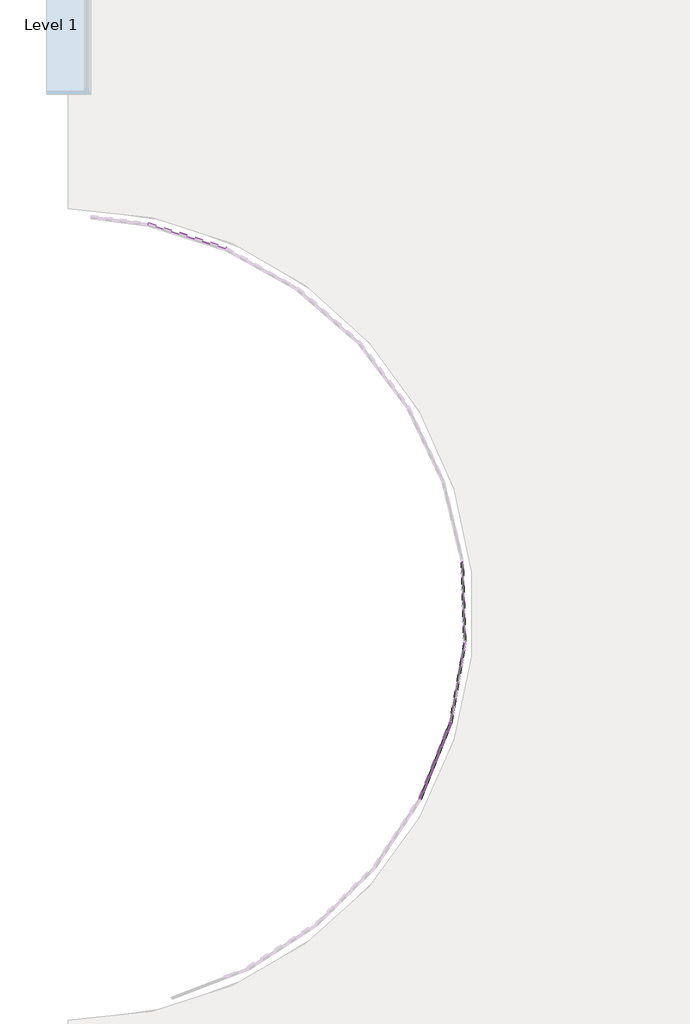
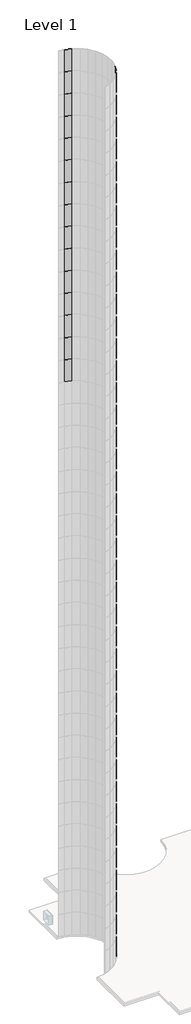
# One storey, part 5 of 19: 128 plates.
"""IFC4 building model written with IfcOpenShell, lengths in millimetres."""

from ifc_helpers import new_model, si_unit, origin, place, context, project, spatial, transform, mapped, element, save
from components import system_panel_glazed_d77d1ebf

model = new_model("IFC4")

# Units and contexts
model_context = context("Model", 3, world=origin())
ifc_project = project(units=[si_unit("LENGTHUNIT", "METRE", prefix="MILLI")], contexts=[model_context])

# Site, building, storey
site = spatial("IfcSite", under=ifc_project)
building = spatial("IfcBuilding", under=site)
storey = spatial("IfcBuildingStorey", under=building, Name="Level 1", Elevation=0.0)

# Plates
placement = place(None, origin())
system_panel_glazed_shape = system_panel_glazed_d77d1ebf(model_context)
element("IfcPlate", 1, ObjectType="System Panel : Glazed", at=placement, inside=storey, context=model_context, shape_type="MappedRepresentation", body=[
    mapped(system_panel_glazed_shape, transform((-10393.2415603, -1968.0681493, 76200.0), x_axis=(-0.9538156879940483, 0.30039246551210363, 0.0), y_axis=(-0.30039246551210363, -0.9538156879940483, 0.0), z_axis=(0.0, 0.0, 1.0))),
])
element("IfcPlate", 2, ObjectType="System Panel : Glazed", at=placement, inside=storey, context=model_context, shape_type="MappedRepresentation", body=[
    mapped(system_panel_glazed_shape, transform((-10393.2415603, -1968.0681493, 79248.0), x_axis=(-0.9538156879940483, 0.30039246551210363, 0.0), y_axis=(-0.30039246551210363, -0.9538156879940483, 0.0), z_axis=(0.0, 0.0, 1.0))),
])
element("IfcPlate", 3, ObjectType="System Panel : Glazed", at=placement, inside=storey, context=model_context, shape_type="MappedRepresentation", body=[
    mapped(system_panel_glazed_shape, transform((-10393.2415603, -1968.0681493, 82296.0), x_axis=(-0.9538156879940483, 0.30039246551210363, 0.0), y_axis=(-0.30039246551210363, -0.9538156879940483, 0.0), z_axis=(0.0, 0.0, 1.0))),
])
element("IfcPlate", 4, ObjectType="System Panel : Glazed", at=placement, inside=storey, context=model_context, shape_type="MappedRepresentation", body=[
    mapped(system_panel_glazed_shape, transform((-10393.2415603, -1968.0681493, 85344.0), x_axis=(-0.9538156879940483, 0.30039246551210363, 0.0), y_axis=(-0.30039246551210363, -0.9538156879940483, 0.0), z_axis=(0.0, 0.0, 1.0))),
])
element("IfcPlate", 5, ObjectType="System Panel : Glazed", at=placement, inside=storey, context=model_context, shape_type="MappedRepresentation", body=[
    mapped(system_panel_glazed_shape, transform((-10393.2415603, -1968.0681493, 88392.0), x_axis=(-0.9538156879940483, 0.30039246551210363, 0.0), y_axis=(-0.30039246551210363, -0.9538156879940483, 0.0), z_axis=(0.0, 0.0, 1.0))),
])
element("IfcPlate", 6, ObjectType="System Panel : Glazed", at=placement, inside=storey, context=model_context, shape_type="MappedRepresentation", body=[
    mapped(system_panel_glazed_shape, transform((-10393.2415603, -1968.0681493, 91440.0), x_axis=(-0.9538156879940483, 0.30039246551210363, 0.0), y_axis=(-0.30039246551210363, -0.9538156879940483, 0.0), z_axis=(0.0, 0.0, 1.0))),
])
element("IfcPlate", 7, ObjectType="System Panel : Glazed", at=placement, inside=storey, context=model_context, shape_type="MappedRepresentation", body=[
    mapped(system_panel_glazed_shape, transform((-10393.2415603, -1968.0681493, 94488.0), x_axis=(-0.9538156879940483, 0.30039246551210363, 0.0), y_axis=(-0.30039246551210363, -0.9538156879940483, 0.0), z_axis=(0.0, 0.0, 1.0))),
])
element("IfcPlate", 8, ObjectType="System Panel : Glazed", at=placement, inside=storey, context=model_context, shape_type="MappedRepresentation", body=[
    mapped(system_panel_glazed_shape, transform((-10393.2415603, -1968.0681493, 97536.0), x_axis=(-0.9538156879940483, 0.30039246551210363, 0.0), y_axis=(-0.30039246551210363, -0.9538156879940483, 0.0), z_axis=(0.0, 0.0, 1.0))),
])
element("IfcPlate", 9, ObjectType="System Panel : Glazed", at=placement, inside=storey, context=model_context, shape_type="MappedRepresentation", body=[
    mapped(system_panel_glazed_shape, transform((-10393.2415603, -1968.0681493, 100584.0), x_axis=(-0.9538156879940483, 0.30039246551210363, 0.0), y_axis=(-0.30039246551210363, -0.9538156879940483, 0.0), z_axis=(0.0, 0.0, 1.0))),
])
element("IfcPlate", 10, ObjectType="System Panel : Glazed", at=placement, inside=storey, context=model_context, shape_type="MappedRepresentation", body=[
    mapped(system_panel_glazed_shape, transform((-7616.2679674, -7836.7336518, 0.0), x_axis=(0.37255142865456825, 0.9280115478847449, 0.0), y_axis=(-0.9280115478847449, 0.37255142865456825, 0.0), z_axis=(0.0, 0.0, 1.0))),
])
element("IfcPlate", 11, ObjectType="System Panel : Glazed", at=placement, inside=storey, context=model_context, shape_type="MappedRepresentation", body=[
    mapped(system_panel_glazed_shape, transform((-7616.2679674, -7836.7336518, 3048.0), x_axis=(0.37255142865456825, 0.9280115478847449, 0.0), y_axis=(-0.9280115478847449, 0.37255142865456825, 0.0), z_axis=(0.0, 0.0, 1.0))),
])
element("IfcPlate", 12, ObjectType="System Panel : Glazed", at=placement, inside=storey, context=model_context, shape_type="MappedRepresentation", body=[
    mapped(system_panel_glazed_shape, transform((-7616.2679674, -7836.7336518, 6096.0), x_axis=(0.37255142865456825, 0.9280115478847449, 0.0), y_axis=(-0.9280115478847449, 0.37255142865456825, 0.0), z_axis=(0.0, 0.0, 1.0))),
])
element("IfcPlate", 13, ObjectType="System Panel : Glazed", at=placement, inside=storey, context=model_context, shape_type="MappedRepresentation", body=[
    mapped(system_panel_glazed_shape, transform((-7616.2679674, -7836.7336518, 9144.0), x_axis=(0.37255142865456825, 0.9280115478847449, 0.0), y_axis=(-0.9280115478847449, 0.37255142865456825, 0.0), z_axis=(0.0, 0.0, 1.0))),
])
element("IfcPlate", 14, ObjectType="System Panel : Glazed", at=placement, inside=storey, context=model_context, shape_type="MappedRepresentation", body=[
    mapped(system_panel_glazed_shape, transform((-7616.2679674, -7836.7336518, 12192.0), x_axis=(0.37255142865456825, 0.9280115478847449, 0.0), y_axis=(-0.9280115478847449, 0.37255142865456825, 0.0), z_axis=(0.0, 0.0, 1.0))),
])
element("IfcPlate", 15, ObjectType="System Panel : Glazed", at=placement, inside=storey, context=model_context, shape_type="MappedRepresentation", body=[
    mapped(system_panel_glazed_shape, transform((-7616.2679674, -7836.7336518, 15240.0), x_axis=(0.37255142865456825, 0.9280115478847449, 0.0), y_axis=(-0.9280115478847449, 0.37255142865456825, 0.0), z_axis=(0.0, 0.0, 1.0))),
])
element("IfcPlate", 16, ObjectType="System Panel : Glazed", at=placement, inside=storey, context=model_context, shape_type="MappedRepresentation", body=[
    mapped(system_panel_glazed_shape, transform((-7616.2679674, -7836.7336518, 18288.0), x_axis=(0.3725514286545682, 0.9280115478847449, 0.0), y_axis=(-0.9280115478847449, 0.3725514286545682, 0.0), z_axis=(0.0, 0.0, 1.0))),
])
element("IfcPlate", 17, ObjectType="System Panel : Glazed", at=placement, inside=storey, context=model_context, shape_type="MappedRepresentation", body=[
    mapped(system_panel_glazed_shape, transform((-7616.2679674, -7836.7336518, 21336.0), x_axis=(0.37255142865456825, 0.9280115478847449, 0.0), y_axis=(-0.9280115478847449, 0.37255142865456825, 0.0), z_axis=(0.0, 0.0, 1.0))),
])
element("IfcPlate", 18, ObjectType="System Panel : Glazed", at=placement, inside=storey, context=model_context, shape_type="MappedRepresentation", body=[
    mapped(system_panel_glazed_shape, transform((-7616.2679674, -7836.7336518, 24384.0), x_axis=(0.37255142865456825, 0.9280115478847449, 0.0), y_axis=(-0.9280115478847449, 0.37255142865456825, 0.0), z_axis=(0.0, 0.0, 1.0))),
])
element("IfcPlate", 19, ObjectType="System Panel : Glazed", at=placement, inside=storey, context=model_context, shape_type="MappedRepresentation", body=[
    mapped(system_panel_glazed_shape, transform((-7616.2679674, -7836.7336518, 27432.0), x_axis=(0.37255142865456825, 0.9280115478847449, 0.0), y_axis=(-0.9280115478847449, 0.37255142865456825, 0.0), z_axis=(0.0, 0.0, 1.0))),
])
element("IfcPlate", 20, ObjectType="System Panel : Glazed", at=placement, inside=storey, context=model_context, shape_type="MappedRepresentation", body=[
    mapped(system_panel_glazed_shape, transform((-7616.2679674, -7836.7336518, 30480.0), x_axis=(0.37255142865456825, 0.9280115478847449, 0.0), y_axis=(-0.9280115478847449, 0.37255142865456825, 0.0), z_axis=(0.0, 0.0, 1.0))),
])
element("IfcPlate", 21, ObjectType="System Panel : Glazed", at=placement, inside=storey, context=model_context, shape_type="MappedRepresentation", body=[
    mapped(system_panel_glazed_shape, transform((-7616.2679674, -7836.7336518, 33528.0), x_axis=(0.37255142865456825, 0.9280115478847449, 0.0), y_axis=(-0.9280115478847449, 0.37255142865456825, 0.0), z_axis=(0.0, 0.0, 1.0))),
])
element("IfcPlate", 22, ObjectType="System Panel : Glazed", at=placement, inside=storey, context=model_context, shape_type="MappedRepresentation", body=[
    mapped(system_panel_glazed_shape, transform((-7616.2679674, -7836.7336518, 36576.0), x_axis=(0.37255142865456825, 0.9280115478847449, 0.0), y_axis=(-0.9280115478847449, 0.37255142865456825, 0.0), z_axis=(0.0, 0.0, 1.0))),
])
element("IfcPlate", 23, ObjectType="System Panel : Glazed", at=placement, inside=storey, context=model_context, shape_type="MappedRepresentation", body=[
    mapped(system_panel_glazed_shape, transform((-7616.2679674, -7836.7336518, 39624.0), x_axis=(0.37255142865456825, 0.9280115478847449, 0.0), y_axis=(-0.9280115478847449, 0.37255142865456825, 0.0), z_axis=(0.0, 0.0, 1.0))),
])
element("IfcPlate", 24, ObjectType="System Panel : Glazed", at=placement, inside=storey, context=model_context, shape_type="MappedRepresentation", body=[
    mapped(system_panel_glazed_shape, transform((-7616.2679674, -7836.7336518, 42672.0), x_axis=(0.37255142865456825, 0.9280115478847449, 0.0), y_axis=(-0.9280115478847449, 0.37255142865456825, 0.0), z_axis=(0.0, 0.0, 1.0))),
])
element("IfcPlate", 25, ObjectType="System Panel : Glazed", at=placement, inside=storey, context=model_context, shape_type="MappedRepresentation", body=[
    mapped(system_panel_glazed_shape, transform((-7616.2679674, -7836.7336518, 45720.0), x_axis=(0.37255142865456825, 0.9280115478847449, 0.0), y_axis=(-0.9280115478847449, 0.37255142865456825, 0.0), z_axis=(0.0, 0.0, 1.0))),
])
element("IfcPlate", 26, ObjectType="System Panel : Glazed", at=placement, inside=storey, context=model_context, shape_type="MappedRepresentation", body=[
    mapped(system_panel_glazed_shape, transform((-7616.2679674, -7836.7336518, 48768.0), x_axis=(0.37255142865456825, 0.9280115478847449, 0.0), y_axis=(-0.9280115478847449, 0.37255142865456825, 0.0), z_axis=(0.0, 0.0, 1.0))),
])
element("IfcPlate", 27, ObjectType="System Panel : Glazed", at=placement, inside=storey, context=model_context, shape_type="MappedRepresentation", body=[
    mapped(system_panel_glazed_shape, transform((-7616.2679674, -7836.7336518, 51816.0), x_axis=(0.37255142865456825, 0.9280115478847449, 0.0), y_axis=(-0.9280115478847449, 0.37255142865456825, 0.0), z_axis=(0.0, 0.0, 1.0))),
])
element("IfcPlate", 28, ObjectType="System Panel : Glazed", at=placement, inside=storey, context=model_context, shape_type="MappedRepresentation", body=[
    mapped(system_panel_glazed_shape, transform((-7616.2679674, -7836.7336518, 54864.0), x_axis=(0.37255142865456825, 0.9280115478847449, 0.0), y_axis=(-0.9280115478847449, 0.37255142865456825, 0.0), z_axis=(0.0, 0.0, 1.0))),
])
element("IfcPlate", 29, ObjectType="System Panel : Glazed", at=placement, inside=storey, context=model_context, shape_type="MappedRepresentation", body=[
    mapped(system_panel_glazed_shape, transform((-7616.2679674, -7836.7336518, 57912.0), x_axis=(0.37255142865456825, 0.9280115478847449, 0.0), y_axis=(-0.9280115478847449, 0.37255142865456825, 0.0), z_axis=(0.0, 0.0, 1.0))),
])
element("IfcPlate", 30, ObjectType="System Panel : Glazed", at=placement, inside=storey, context=model_context, shape_type="MappedRepresentation", body=[
    mapped(system_panel_glazed_shape, transform((-7616.2679674, -7836.7336518, 60960.0), x_axis=(0.37255142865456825, 0.9280115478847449, 0.0), y_axis=(-0.9280115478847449, 0.37255142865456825, 0.0), z_axis=(0.0, 0.0, 1.0))),
])
element("IfcPlate", 31, ObjectType="System Panel : Glazed", at=placement, inside=storey, context=model_context, shape_type="MappedRepresentation", body=[
    mapped(system_panel_glazed_shape, transform((-7616.2679674, -7836.7336518, 64008.0), x_axis=(0.37255142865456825, 0.9280115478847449, 0.0), y_axis=(-0.9280115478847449, 0.37255142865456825, 0.0), z_axis=(0.0, 0.0, 1.0))),
])
element("IfcPlate", 32, ObjectType="System Panel : Glazed", at=placement, inside=storey, context=model_context, shape_type="MappedRepresentation", body=[
    mapped(system_panel_glazed_shape, transform((-7616.2679674, -7836.7336518, 67056.0), x_axis=(0.37255142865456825, 0.9280115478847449, 0.0), y_axis=(-0.9280115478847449, 0.37255142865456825, 0.0), z_axis=(0.0, 0.0, 1.0))),
])
element("IfcPlate", 33, ObjectType="System Panel : Glazed", at=placement, inside=storey, context=model_context, shape_type="MappedRepresentation", body=[
    mapped(system_panel_glazed_shape, transform((-7616.2679674, -7836.7336518, 70104.0), x_axis=(0.37255142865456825, 0.9280115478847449, 0.0), y_axis=(-0.9280115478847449, 0.37255142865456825, 0.0), z_axis=(0.0, 0.0, 1.0))),
])
element("IfcPlate", 34, ObjectType="System Panel : Glazed", at=placement, inside=storey, context=model_context, shape_type="MappedRepresentation", body=[
    mapped(system_panel_glazed_shape, transform((-7616.2679674, -7836.7336518, 73152.0), x_axis=(0.37255142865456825, 0.9280115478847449, 0.0), y_axis=(-0.9280115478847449, 0.37255142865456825, 0.0), z_axis=(0.0, 0.0, 1.0))),
])
element("IfcPlate", 35, ObjectType="System Panel : Glazed", at=placement, inside=storey, context=model_context, shape_type="MappedRepresentation", body=[
    mapped(system_panel_glazed_shape, transform((-7616.2679674, -7836.7336518, 76200.0), x_axis=(0.37255142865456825, 0.9280115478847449, 0.0), y_axis=(-0.9280115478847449, 0.37255142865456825, 0.0), z_axis=(0.0, 0.0, 1.0))),
])
element("IfcPlate", 36, ObjectType="System Panel : Glazed", at=placement, inside=storey, context=model_context, shape_type="MappedRepresentation", body=[
    mapped(system_panel_glazed_shape, transform((-7616.2679674, -7836.7336518, 79248.0), x_axis=(0.37255142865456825, 0.9280115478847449, 0.0), y_axis=(-0.9280115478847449, 0.37255142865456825, 0.0), z_axis=(0.0, 0.0, 1.0))),
])
element("IfcPlate", 37, ObjectType="System Panel : Glazed", at=placement, inside=storey, context=model_context, shape_type="MappedRepresentation", body=[
    mapped(system_panel_glazed_shape, transform((-7616.2679674, -7836.7336518, 82296.0), x_axis=(0.37255142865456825, 0.9280115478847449, 0.0), y_axis=(-0.9280115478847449, 0.37255142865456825, 0.0), z_axis=(0.0, 0.0, 1.0))),
])
element("IfcPlate", 38, ObjectType="System Panel : Glazed", at=placement, inside=storey, context=model_context, shape_type="MappedRepresentation", body=[
    mapped(system_panel_glazed_shape, transform((-7616.2679674, -7836.7336518, 85344.0), x_axis=(0.37255142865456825, 0.9280115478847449, 0.0), y_axis=(-0.9280115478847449, 0.37255142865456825, 0.0), z_axis=(0.0, 0.0, 1.0))),
])
element("IfcPlate", 39, ObjectType="System Panel : Glazed", at=placement, inside=storey, context=model_context, shape_type="MappedRepresentation", body=[
    mapped(system_panel_glazed_shape, transform((-7616.2679674, -7836.7336518, 88392.0), x_axis=(0.37255142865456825, 0.9280115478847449, 0.0), y_axis=(-0.9280115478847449, 0.37255142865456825, 0.0), z_axis=(0.0, 0.0, 1.0))),
])
element("IfcPlate", 40, ObjectType="System Panel : Glazed", at=placement, inside=storey, context=model_context, shape_type="MappedRepresentation", body=[
    mapped(system_panel_glazed_shape, transform((-7616.2679674, -7836.7336518, 91440.0), x_axis=(0.37255142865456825, 0.9280115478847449, 0.0), y_axis=(-0.9280115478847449, 0.37255142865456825, 0.0), z_axis=(0.0, 0.0, 1.0))),
])
element("IfcPlate", 41, ObjectType="System Panel : Glazed", at=placement, inside=storey, context=model_context, shape_type="MappedRepresentation", body=[
    mapped(system_panel_glazed_shape, transform((-7616.2679674, -7836.7336518, 94488.0), x_axis=(0.37255142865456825, 0.9280115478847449, 0.0), y_axis=(-0.9280115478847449, 0.37255142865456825, 0.0), z_axis=(0.0, 0.0, 1.0))),
])
element("IfcPlate", 42, ObjectType="System Panel : Glazed", at=placement, inside=storey, context=model_context, shape_type="MappedRepresentation", body=[
    mapped(system_panel_glazed_shape, transform((-7616.2679674, -7836.7336518, 97536.0), x_axis=(0.37255142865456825, 0.9280115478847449, 0.0), y_axis=(-0.9280115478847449, 0.37255142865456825, 0.0), z_axis=(0.0, 0.0, 1.0))),
])
element("IfcPlate", 43, ObjectType="System Panel : Glazed", at=placement, inside=storey, context=model_context, shape_type="MappedRepresentation", body=[
    mapped(system_panel_glazed_shape, transform((-7616.2679674, -7836.7336518, 100584.0), x_axis=(0.37255142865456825, 0.9280115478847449, 0.0), y_axis=(-0.9280115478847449, 0.37255142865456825, 0.0), z_axis=(0.0, 0.0, 1.0))),
])
element("IfcPlate", 44, ObjectType="System Panel : Glazed", at=placement, inside=storey, context=model_context, shape_type="MappedRepresentation", body=[
    mapped(system_panel_glazed_shape, transform((-7365.9634866, -6962.2956813, 0.0), x_axis=(0.17492118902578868, 0.9845824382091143, 0.0), y_axis=(-0.9845824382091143, 0.17492118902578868, 0.0), z_axis=(0.0, 0.0, 1.0))),
])
element("IfcPlate", 45, ObjectType="System Panel : Glazed", at=placement, inside=storey, context=model_context, shape_type="MappedRepresentation", body=[
    mapped(system_panel_glazed_shape, transform((-7365.9634866, -6962.2956813, 3048.0), x_axis=(0.17492118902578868, 0.9845824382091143, 0.0), y_axis=(-0.9845824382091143, 0.17492118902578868, 0.0), z_axis=(0.0, 0.0, 1.0))),
])
element("IfcPlate", 46, ObjectType="System Panel : Glazed", at=placement, inside=storey, context=model_context, shape_type="MappedRepresentation", body=[
    mapped(system_panel_glazed_shape, transform((-7365.9634866, -6962.2956813, 6096.0), x_axis=(0.17492118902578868, 0.9845824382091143, 0.0), y_axis=(-0.9845824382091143, 0.17492118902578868, 0.0), z_axis=(0.0, 0.0, 1.0))),
])
element("IfcPlate", 47, ObjectType="System Panel : Glazed", at=placement, inside=storey, context=model_context, shape_type="MappedRepresentation", body=[
    mapped(system_panel_glazed_shape, transform((-7365.9634866, -6962.2956813, 9144.0), x_axis=(0.17492118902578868, 0.9845824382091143, 0.0), y_axis=(-0.9845824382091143, 0.17492118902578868, 0.0), z_axis=(0.0, 0.0, 1.0))),
])
element("IfcPlate", 48, ObjectType="System Panel : Glazed", at=placement, inside=storey, context=model_context, shape_type="MappedRepresentation", body=[
    mapped(system_panel_glazed_shape, transform((-7365.9634866, -6962.2956813, 12192.0), x_axis=(0.17492118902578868, 0.9845824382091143, 0.0), y_axis=(-0.9845824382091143, 0.17492118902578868, 0.0), z_axis=(0.0, 0.0, 1.0))),
])
element("IfcPlate", 49, ObjectType="System Panel : Glazed", at=placement, inside=storey, context=model_context, shape_type="MappedRepresentation", body=[
    mapped(system_panel_glazed_shape, transform((-7365.9634866, -6962.2956813, 15240.0), x_axis=(0.17492118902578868, 0.9845824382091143, 0.0), y_axis=(-0.9845824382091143, 0.17492118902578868, 0.0), z_axis=(0.0, 0.0, 1.0))),
])
element("IfcPlate", 50, ObjectType="System Panel : Glazed", at=placement, inside=storey, context=model_context, shape_type="MappedRepresentation", body=[
    mapped(system_panel_glazed_shape, transform((-7365.9634866, -6962.2956813, 18288.0), x_axis=(0.17492118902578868, 0.9845824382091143, 0.0), y_axis=(-0.9845824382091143, 0.17492118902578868, 0.0), z_axis=(0.0, 0.0, 1.0))),
])
element("IfcPlate", 51, ObjectType="System Panel : Glazed", at=placement, inside=storey, context=model_context, shape_type="MappedRepresentation", body=[
    mapped(system_panel_glazed_shape, transform((-7365.9634866, -6962.2956813, 21336.0), x_axis=(0.17492118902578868, 0.9845824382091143, 0.0), y_axis=(-0.9845824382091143, 0.17492118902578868, 0.0), z_axis=(0.0, 0.0, 1.0))),
])
element("IfcPlate", 52, ObjectType="System Panel : Glazed", at=placement, inside=storey, context=model_context, shape_type="MappedRepresentation", body=[
    mapped(system_panel_glazed_shape, transform((-7365.9634866, -6962.2956813, 24384.0), x_axis=(0.17492118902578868, 0.9845824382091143, 0.0), y_axis=(-0.9845824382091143, 0.17492118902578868, 0.0), z_axis=(0.0, 0.0, 1.0))),
])
element("IfcPlate", 53, ObjectType="System Panel : Glazed", at=placement, inside=storey, context=model_context, shape_type="MappedRepresentation", body=[
    mapped(system_panel_glazed_shape, transform((-7365.9634866, -6962.2956813, 27432.0), x_axis=(0.17492118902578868, 0.9845824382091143, 0.0), y_axis=(-0.9845824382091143, 0.17492118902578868, 0.0), z_axis=(0.0, 0.0, 1.0))),
])
element("IfcPlate", 54, ObjectType="System Panel : Glazed", at=placement, inside=storey, context=model_context, shape_type="MappedRepresentation", body=[
    mapped(system_panel_glazed_shape, transform((-7365.9634866, -6962.2956813, 30480.0), x_axis=(0.17492118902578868, 0.9845824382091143, 0.0), y_axis=(-0.9845824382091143, 0.17492118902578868, 0.0), z_axis=(0.0, 0.0, 1.0))),
])
element("IfcPlate", 55, ObjectType="System Panel : Glazed", at=placement, inside=storey, context=model_context, shape_type="MappedRepresentation", body=[
    mapped(system_panel_glazed_shape, transform((-7365.9634866, -6962.2956813, 33528.0), x_axis=(0.17492118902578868, 0.9845824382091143, 0.0), y_axis=(-0.9845824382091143, 0.17492118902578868, 0.0), z_axis=(0.0, 0.0, 1.0))),
])
element("IfcPlate", 56, ObjectType="System Panel : Glazed", at=placement, inside=storey, context=model_context, shape_type="MappedRepresentation", body=[
    mapped(system_panel_glazed_shape, transform((-7365.9634866, -6962.2956813, 36576.0), x_axis=(0.17492118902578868, 0.9845824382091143, 0.0), y_axis=(-0.9845824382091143, 0.17492118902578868, 0.0), z_axis=(0.0, 0.0, 1.0))),
])
element("IfcPlate", 57, ObjectType="System Panel : Glazed", at=placement, inside=storey, context=model_context, shape_type="MappedRepresentation", body=[
    mapped(system_panel_glazed_shape, transform((-7365.9634866, -6962.2956813, 39624.0), x_axis=(0.17492118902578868, 0.9845824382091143, 0.0), y_axis=(-0.9845824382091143, 0.17492118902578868, 0.0), z_axis=(0.0, 0.0, 1.0))),
])
element("IfcPlate", 58, ObjectType="System Panel : Glazed", at=placement, inside=storey, context=model_context, shape_type="MappedRepresentation", body=[
    mapped(system_panel_glazed_shape, transform((-7365.9634866, -6962.2956813, 42672.0), x_axis=(0.17492118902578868, 0.9845824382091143, 0.0), y_axis=(-0.9845824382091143, 0.17492118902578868, 0.0), z_axis=(0.0, 0.0, 1.0))),
])
element("IfcPlate", 59, ObjectType="System Panel : Glazed", at=placement, inside=storey, context=model_context, shape_type="MappedRepresentation", body=[
    mapped(system_panel_glazed_shape, transform((-7365.9634866, -6962.2956813, 45720.0), x_axis=(0.17492118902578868, 0.9845824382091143, 0.0), y_axis=(-0.9845824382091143, 0.17492118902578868, 0.0), z_axis=(0.0, 0.0, 1.0))),
])
element("IfcPlate", 60, ObjectType="System Panel : Glazed", at=placement, inside=storey, context=model_context, shape_type="MappedRepresentation", body=[
    mapped(system_panel_glazed_shape, transform((-7365.9634866, -6962.2956813, 48768.0), x_axis=(0.17492118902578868, 0.9845824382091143, 0.0), y_axis=(-0.9845824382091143, 0.17492118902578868, 0.0), z_axis=(0.0, 0.0, 1.0))),
])
element("IfcPlate", 61, ObjectType="System Panel : Glazed", at=placement, inside=storey, context=model_context, shape_type="MappedRepresentation", body=[
    mapped(system_panel_glazed_shape, transform((-7365.9634866, -6962.2956813, 51816.0), x_axis=(0.17492118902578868, 0.9845824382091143, 0.0), y_axis=(-0.9845824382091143, 0.17492118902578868, 0.0), z_axis=(0.0, 0.0, 1.0))),
])
element("IfcPlate", 62, ObjectType="System Panel : Glazed", at=placement, inside=storey, context=model_context, shape_type="MappedRepresentation", body=[
    mapped(system_panel_glazed_shape, transform((-7365.9634866, -6962.2956813, 54864.0), x_axis=(0.17492118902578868, 0.9845824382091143, 0.0), y_axis=(-0.9845824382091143, 0.17492118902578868, 0.0), z_axis=(0.0, 0.0, 1.0))),
])
element("IfcPlate", 63, ObjectType="System Panel : Glazed", at=placement, inside=storey, context=model_context, shape_type="MappedRepresentation", body=[
    mapped(system_panel_glazed_shape, transform((-7365.9634866, -6962.2956813, 57912.0), x_axis=(0.17492118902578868, 0.9845824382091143, 0.0), y_axis=(-0.9845824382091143, 0.17492118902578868, 0.0), z_axis=(0.0, 0.0, 1.0))),
])
element("IfcPlate", 64, ObjectType="System Panel : Glazed", at=placement, inside=storey, context=model_context, shape_type="MappedRepresentation", body=[
    mapped(system_panel_glazed_shape, transform((-7365.9634866, -6962.2956813, 60960.0), x_axis=(0.17492118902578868, 0.9845824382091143, 0.0), y_axis=(-0.9845824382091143, 0.17492118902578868, 0.0), z_axis=(0.0, 0.0, 1.0))),
])
element("IfcPlate", 65, ObjectType="System Panel : Glazed", at=placement, inside=storey, context=model_context, shape_type="MappedRepresentation", body=[
    mapped(system_panel_glazed_shape, transform((-7365.9634866, -6962.2956813, 64008.0), x_axis=(0.17492118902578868, 0.9845824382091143, 0.0), y_axis=(-0.9845824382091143, 0.17492118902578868, 0.0), z_axis=(0.0, 0.0, 1.0))),
])
element("IfcPlate", 66, ObjectType="System Panel : Glazed", at=placement, inside=storey, context=model_context, shape_type="MappedRepresentation", body=[
    mapped(system_panel_glazed_shape, transform((-7365.9634866, -6962.2956813, 67056.0), x_axis=(0.17492118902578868, 0.9845824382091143, 0.0), y_axis=(-0.9845824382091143, 0.17492118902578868, 0.0), z_axis=(0.0, 0.0, 1.0))),
])
element("IfcPlate", 67, ObjectType="System Panel : Glazed", at=placement, inside=storey, context=model_context, shape_type="MappedRepresentation", body=[
    mapped(system_panel_glazed_shape, transform((-7365.9634866, -6962.2956813, 70104.0), x_axis=(0.17492118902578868, 0.9845824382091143, 0.0), y_axis=(-0.9845824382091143, 0.17492118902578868, 0.0), z_axis=(0.0, 0.0, 1.0))),
])
element("IfcPlate", 68, ObjectType="System Panel : Glazed", at=placement, inside=storey, context=model_context, shape_type="MappedRepresentation", body=[
    mapped(system_panel_glazed_shape, transform((-7365.9634866, -6962.2956813, 73152.0), x_axis=(0.17492118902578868, 0.9845824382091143, 0.0), y_axis=(-0.9845824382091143, 0.17492118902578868, 0.0), z_axis=(0.0, 0.0, 1.0))),
])
element("IfcPlate", 69, ObjectType="System Panel : Glazed", at=placement, inside=storey, context=model_context, shape_type="MappedRepresentation", body=[
    mapped(system_panel_glazed_shape, transform((-7365.9634866, -6962.2956813, 76200.0), x_axis=(0.17492118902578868, 0.9845824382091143, 0.0), y_axis=(-0.9845824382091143, 0.17492118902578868, 0.0), z_axis=(0.0, 0.0, 1.0))),
])
element("IfcPlate", 70, ObjectType="System Panel : Glazed", at=placement, inside=storey, context=model_context, shape_type="MappedRepresentation", body=[
    mapped(system_panel_glazed_shape, transform((-7365.9634866, -6962.2956813, 79248.0), x_axis=(0.17492118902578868, 0.9845824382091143, 0.0), y_axis=(-0.9845824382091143, 0.17492118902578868, 0.0), z_axis=(0.0, 0.0, 1.0))),
])
element("IfcPlate", 71, ObjectType="System Panel : Glazed", at=placement, inside=storey, context=model_context, shape_type="MappedRepresentation", body=[
    mapped(system_panel_glazed_shape, transform((-7365.9634866, -6962.2956813, 82296.0), x_axis=(0.17492118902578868, 0.9845824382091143, 0.0), y_axis=(-0.9845824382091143, 0.17492118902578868, 0.0), z_axis=(0.0, 0.0, 1.0))),
])
element("IfcPlate", 72, ObjectType="System Panel : Glazed", at=placement, inside=storey, context=model_context, shape_type="MappedRepresentation", body=[
    mapped(system_panel_glazed_shape, transform((-7365.9634866, -6962.2956813, 85344.0), x_axis=(0.17492118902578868, 0.9845824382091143, 0.0), y_axis=(-0.9845824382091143, 0.17492118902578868, 0.0), z_axis=(0.0, 0.0, 1.0))),
])
element("IfcPlate", 73, ObjectType="System Panel : Glazed", at=placement, inside=storey, context=model_context, shape_type="MappedRepresentation", body=[
    mapped(system_panel_glazed_shape, transform((-7365.9634866, -6962.2956813, 88392.0), x_axis=(0.17492118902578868, 0.9845824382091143, 0.0), y_axis=(-0.9845824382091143, 0.17492118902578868, 0.0), z_axis=(0.0, 0.0, 1.0))),
])
element("IfcPlate", 74, ObjectType="System Panel : Glazed", at=placement, inside=storey, context=model_context, shape_type="MappedRepresentation", body=[
    mapped(system_panel_glazed_shape, transform((-7365.9634866, -6962.2956813, 91440.0), x_axis=(0.17492118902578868, 0.9845824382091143, 0.0), y_axis=(-0.9845824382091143, 0.17492118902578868, 0.0), z_axis=(0.0, 0.0, 1.0))),
])
element("IfcPlate", 75, ObjectType="System Panel : Glazed", at=placement, inside=storey, context=model_context, shape_type="MappedRepresentation", body=[
    mapped(system_panel_glazed_shape, transform((-7365.9634866, -6962.2956813, 94488.0), x_axis=(0.17492118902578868, 0.9845824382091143, 0.0), y_axis=(-0.9845824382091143, 0.17492118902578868, 0.0), z_axis=(0.0, 0.0, 1.0))),
])
element("IfcPlate", 76, ObjectType="System Panel : Glazed", at=placement, inside=storey, context=model_context, shape_type="MappedRepresentation", body=[
    mapped(system_panel_glazed_shape, transform((-7365.9634866, -6962.2956813, 97536.0), x_axis=(0.17492118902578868, 0.9845824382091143, 0.0), y_axis=(-0.9845824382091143, 0.17492118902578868, 0.0), z_axis=(0.0, 0.0, 1.0))),
])
element("IfcPlate", 77, ObjectType="System Panel : Glazed", at=placement, inside=storey, context=model_context, shape_type="MappedRepresentation", body=[
    mapped(system_panel_glazed_shape, transform((-7365.9634866, -6962.2956813, 100584.0), x_axis=(0.17492118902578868, 0.9845824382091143, 0.0), y_axis=(-0.9845824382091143, 0.17492118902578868, 0.0), z_axis=(0.0, 0.0, 1.0))),
])
element("IfcPlate", 78, ObjectType="System Panel : Glazed", at=placement, inside=storey, context=model_context, shape_type="MappedRepresentation", body=[
    mapped(system_panel_glazed_shape, transform((-7299.7516351, -6055.1517633, 0.0), x_axis=(-0.03010086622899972, 0.9995468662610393, 0.0), y_axis=(-0.9995468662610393, -0.03010086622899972, 0.0), z_axis=(0.0, 0.0, 1.0))),
])
element("IfcPlate", 79, ObjectType="System Panel : Glazed", at=placement, inside=storey, context=model_context, shape_type="MappedRepresentation", body=[
    mapped(system_panel_glazed_shape, transform((-7299.7516351, -6055.1517633, 3048.0), x_axis=(-0.03010086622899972, 0.9995468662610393, 0.0), y_axis=(-0.9995468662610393, -0.03010086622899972, 0.0), z_axis=(0.0, 0.0, 1.0))),
])
element("IfcPlate", 80, ObjectType="System Panel : Glazed", at=placement, inside=storey, context=model_context, shape_type="MappedRepresentation", body=[
    mapped(system_panel_glazed_shape, transform((-7299.7516351, -6055.1517633, 6096.0), x_axis=(-0.03010086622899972, 0.9995468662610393, 0.0), y_axis=(-0.9995468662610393, -0.03010086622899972, 0.0), z_axis=(0.0, 0.0, 1.0))),
])
element("IfcPlate", 81, ObjectType="System Panel : Glazed", at=placement, inside=storey, context=model_context, shape_type="MappedRepresentation", body=[
    mapped(system_panel_glazed_shape, transform((-7299.7516351, -6055.1517633, 9144.0), x_axis=(-0.03010086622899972, 0.9995468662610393, 0.0), y_axis=(-0.9995468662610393, -0.03010086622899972, 0.0), z_axis=(0.0, 0.0, 1.0))),
])
element("IfcPlate", 82, ObjectType="System Panel : Glazed", at=placement, inside=storey, context=model_context, shape_type="MappedRepresentation", body=[
    mapped(system_panel_glazed_shape, transform((-7299.7516351, -6055.1517633, 12192.0), x_axis=(-0.03010086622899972, 0.9995468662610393, 0.0), y_axis=(-0.9995468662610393, -0.03010086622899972, 0.0), z_axis=(0.0, 0.0, 1.0))),
])
element("IfcPlate", 83, ObjectType="System Panel : Glazed", at=placement, inside=storey, context=model_context, shape_type="MappedRepresentation", body=[
    mapped(system_panel_glazed_shape, transform((-7299.7516351, -6055.1517633, 15240.0), x_axis=(-0.03010086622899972, 0.9995468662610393, 0.0), y_axis=(-0.9995468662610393, -0.03010086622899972, 0.0), z_axis=(0.0, 0.0, 1.0))),
])
element("IfcPlate", 84, ObjectType="System Panel : Glazed", at=placement, inside=storey, context=model_context, shape_type="MappedRepresentation", body=[
    mapped(system_panel_glazed_shape, transform((-7299.7516351, -6055.1517633, 18288.0), x_axis=(-0.030100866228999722, 0.9995468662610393, 0.0), y_axis=(-0.9995468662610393, -0.030100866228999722, 0.0), z_axis=(0.0, 0.0, 1.0))),
])
element("IfcPlate", 85, ObjectType="System Panel : Glazed", at=placement, inside=storey, context=model_context, shape_type="MappedRepresentation", body=[
    mapped(system_panel_glazed_shape, transform((-7299.7516351, -6055.1517633, 21336.0), x_axis=(-0.03010086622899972, 0.9995468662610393, 0.0), y_axis=(-0.9995468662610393, -0.03010086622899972, 0.0), z_axis=(0.0, 0.0, 1.0))),
])
element("IfcPlate", 86, ObjectType="System Panel : Glazed", at=placement, inside=storey, context=model_context, shape_type="MappedRepresentation", body=[
    mapped(system_panel_glazed_shape, transform((-7299.7516351, -6055.1517633, 24384.0), x_axis=(-0.03010086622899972, 0.9995468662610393, 0.0), y_axis=(-0.9995468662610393, -0.03010086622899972, 0.0), z_axis=(0.0, 0.0, 1.0))),
])
element("IfcPlate", 87, ObjectType="System Panel : Glazed", at=placement, inside=storey, context=model_context, shape_type="MappedRepresentation", body=[
    mapped(system_panel_glazed_shape, transform((-7299.7516351, -6055.1517633, 27432.0), x_axis=(-0.03010086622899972, 0.9995468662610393, 0.0), y_axis=(-0.9995468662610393, -0.03010086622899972, 0.0), z_axis=(0.0, 0.0, 1.0))),
])
element("IfcPlate", 88, ObjectType="System Panel : Glazed", at=placement, inside=storey, context=model_context, shape_type="MappedRepresentation", body=[
    mapped(system_panel_glazed_shape, transform((-7299.7516351, -6055.1517633, 30480.0), x_axis=(-0.03010086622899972, 0.9995468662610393, 0.0), y_axis=(-0.9995468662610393, -0.03010086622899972, 0.0), z_axis=(0.0, 0.0, 1.0))),
])
element("IfcPlate", 89, ObjectType="System Panel : Glazed", at=placement, inside=storey, context=model_context, shape_type="MappedRepresentation", body=[
    mapped(system_panel_glazed_shape, transform((-7299.7516351, -6055.1517633, 33528.0), x_axis=(-0.03010086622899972, 0.9995468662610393, 0.0), y_axis=(-0.9995468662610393, -0.03010086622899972, 0.0), z_axis=(0.0, 0.0, 1.0))),
])
element("IfcPlate", 90, ObjectType="System Panel : Glazed", at=placement, inside=storey, context=model_context, shape_type="MappedRepresentation", body=[
    mapped(system_panel_glazed_shape, transform((-7299.7516351, -6055.1517633, 36576.0), x_axis=(-0.03010086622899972, 0.9995468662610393, 0.0), y_axis=(-0.9995468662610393, -0.03010086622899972, 0.0), z_axis=(0.0, 0.0, 1.0))),
])
element("IfcPlate", 91, ObjectType="System Panel : Glazed", at=placement, inside=storey, context=model_context, shape_type="MappedRepresentation", body=[
    mapped(system_panel_glazed_shape, transform((-7299.7516351, -6055.1517633, 39624.0), x_axis=(-0.03010086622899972, 0.9995468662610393, 0.0), y_axis=(-0.9995468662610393, -0.03010086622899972, 0.0), z_axis=(0.0, 0.0, 1.0))),
])
element("IfcPlate", 92, ObjectType="System Panel : Glazed", at=placement, inside=storey, context=model_context, shape_type="MappedRepresentation", body=[
    mapped(system_panel_glazed_shape, transform((-7299.7516351, -6055.1517633, 42672.0), x_axis=(-0.03010086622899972, 0.9995468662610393, 0.0), y_axis=(-0.9995468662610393, -0.03010086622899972, 0.0), z_axis=(0.0, 0.0, 1.0))),
])
element("IfcPlate", 93, ObjectType="System Panel : Glazed", at=placement, inside=storey, context=model_context, shape_type="MappedRepresentation", body=[
    mapped(system_panel_glazed_shape, transform((-7299.7516351, -6055.1517633, 45720.0), x_axis=(-0.03010086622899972, 0.9995468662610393, 0.0), y_axis=(-0.9995468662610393, -0.03010086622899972, 0.0), z_axis=(0.0, 0.0, 1.0))),
])
element("IfcPlate", 94, ObjectType="System Panel : Glazed", at=placement, inside=storey, context=model_context, shape_type="MappedRepresentation", body=[
    mapped(system_panel_glazed_shape, transform((-7299.7516351, -6055.1517633, 48768.0), x_axis=(-0.03010086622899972, 0.9995468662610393, 0.0), y_axis=(-0.9995468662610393, -0.03010086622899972, 0.0), z_axis=(0.0, 0.0, 1.0))),
])
element("IfcPlate", 95, ObjectType="System Panel : Glazed", at=placement, inside=storey, context=model_context, shape_type="MappedRepresentation", body=[
    mapped(system_panel_glazed_shape, transform((-7299.7516351, -6055.1517633, 51816.0), x_axis=(-0.03010086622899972, 0.9995468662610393, 0.0), y_axis=(-0.9995468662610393, -0.03010086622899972, 0.0), z_axis=(0.0, 0.0, 1.0))),
])
element("IfcPlate", 96, ObjectType="System Panel : Glazed", at=placement, inside=storey, context=model_context, shape_type="MappedRepresentation", body=[
    mapped(system_panel_glazed_shape, transform((-7299.7516351, -6055.1517633, 54864.0), x_axis=(-0.03010086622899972, 0.9995468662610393, 0.0), y_axis=(-0.9995468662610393, -0.03010086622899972, 0.0), z_axis=(0.0, 0.0, 1.0))),
])
element("IfcPlate", 97, ObjectType="System Panel : Glazed", at=placement, inside=storey, context=model_context, shape_type="MappedRepresentation", body=[
    mapped(system_panel_glazed_shape, transform((-7299.7516351, -6055.1517633, 57912.0), x_axis=(-0.03010086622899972, 0.9995468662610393, 0.0), y_axis=(-0.9995468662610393, -0.03010086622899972, 0.0), z_axis=(0.0, 0.0, 1.0))),
])
element("IfcPlate", 98, ObjectType="System Panel : Glazed", at=placement, inside=storey, context=model_context, shape_type="MappedRepresentation", body=[
    mapped(system_panel_glazed_shape, transform((-7299.7516351, -6055.1517633, 60960.0), x_axis=(-0.03010086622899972, 0.9995468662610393, 0.0), y_axis=(-0.9995468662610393, -0.03010086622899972, 0.0), z_axis=(0.0, 0.0, 1.0))),
])
element("IfcPlate", 99, ObjectType="System Panel : Glazed", at=placement, inside=storey, context=model_context, shape_type="MappedRepresentation", body=[
    mapped(system_panel_glazed_shape, transform((-7299.7516351, -6055.1517633, 64008.0), x_axis=(-0.03010086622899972, 0.9995468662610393, 0.0), y_axis=(-0.9995468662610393, -0.03010086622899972, 0.0), z_axis=(0.0, 0.0, 1.0))),
])
element("IfcPlate", 100, ObjectType="System Panel : Glazed", at=placement, inside=storey, context=model_context, shape_type="MappedRepresentation", body=[
    mapped(system_panel_glazed_shape, transform((-7299.7516351, -6055.1517633, 67056.0), x_axis=(-0.03010086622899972, 0.9995468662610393, 0.0), y_axis=(-0.9995468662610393, -0.03010086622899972, 0.0), z_axis=(0.0, 0.0, 1.0))),
])
element("IfcPlate", 101, ObjectType="System Panel : Glazed", at=placement, inside=storey, context=model_context, shape_type="MappedRepresentation", body=[
    mapped(system_panel_glazed_shape, transform((-7299.7516351, -6055.1517633, 70104.0), x_axis=(-0.03010086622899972, 0.9995468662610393, 0.0), y_axis=(-0.9995468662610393, -0.03010086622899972, 0.0), z_axis=(0.0, 0.0, 1.0))),
])
element("IfcPlate", 102, ObjectType="System Panel : Glazed", at=placement, inside=storey, context=model_context, shape_type="MappedRepresentation", body=[
    mapped(system_panel_glazed_shape, transform((-7299.7516351, -6055.1517633, 73152.0), x_axis=(-0.03010086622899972, 0.9995468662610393, 0.0), y_axis=(-0.9995468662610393, -0.03010086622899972, 0.0), z_axis=(0.0, 0.0, 1.0))),
])
element("IfcPlate", 103, ObjectType="System Panel : Glazed", at=placement, inside=storey, context=model_context, shape_type="MappedRepresentation", body=[
    mapped(system_panel_glazed_shape, transform((-7299.7516351, -6055.1517633, 76200.0), x_axis=(-0.03010086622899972, 0.9995468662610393, 0.0), y_axis=(-0.9995468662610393, -0.03010086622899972, 0.0), z_axis=(0.0, 0.0, 1.0))),
])
element("IfcPlate", 104, ObjectType="System Panel : Glazed", at=placement, inside=storey, context=model_context, shape_type="MappedRepresentation", body=[
    mapped(system_panel_glazed_shape, transform((-7299.7516351, -6055.1517633, 79248.0), x_axis=(-0.03010086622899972, 0.9995468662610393, 0.0), y_axis=(-0.9995468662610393, -0.03010086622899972, 0.0), z_axis=(0.0, 0.0, 1.0))),
])
element("IfcPlate", 105, ObjectType="System Panel : Glazed", at=placement, inside=storey, context=model_context, shape_type="MappedRepresentation", body=[
    mapped(system_panel_glazed_shape, transform((-7299.7516351, -6055.1517633, 82296.0), x_axis=(-0.03010086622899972, 0.9995468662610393, 0.0), y_axis=(-0.9995468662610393, -0.03010086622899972, 0.0), z_axis=(0.0, 0.0, 1.0))),
])
element("IfcPlate", 106, ObjectType="System Panel : Glazed", at=placement, inside=storey, context=model_context, shape_type="MappedRepresentation", body=[
    mapped(system_panel_glazed_shape, transform((-7299.7516351, -6055.1517633, 85344.0), x_axis=(-0.03010086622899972, 0.9995468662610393, 0.0), y_axis=(-0.9995468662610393, -0.03010086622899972, 0.0), z_axis=(0.0, 0.0, 1.0))),
])
element("IfcPlate", 107, ObjectType="System Panel : Glazed", at=placement, inside=storey, context=model_context, shape_type="MappedRepresentation", body=[
    mapped(system_panel_glazed_shape, transform((-7299.7516351, -6055.1517633, 88392.0), x_axis=(-0.03010086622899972, 0.9995468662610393, 0.0), y_axis=(-0.9995468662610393, -0.03010086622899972, 0.0), z_axis=(0.0, 0.0, 1.0))),
])
element("IfcPlate", 108, ObjectType="System Panel : Glazed", at=placement, inside=storey, context=model_context, shape_type="MappedRepresentation", body=[
    mapped(system_panel_glazed_shape, transform((-7299.7516351, -6055.1517633, 91440.0), x_axis=(-0.03010086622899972, 0.9995468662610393, 0.0), y_axis=(-0.9995468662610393, -0.03010086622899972, 0.0), z_axis=(0.0, 0.0, 1.0))),
])
element("IfcPlate", 109, ObjectType="System Panel : Glazed", at=placement, inside=storey, context=model_context, shape_type="MappedRepresentation", body=[
    mapped(system_panel_glazed_shape, transform((-7299.7516351, -6055.1517633, 94488.0), x_axis=(-0.03010086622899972, 0.9995468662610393, 0.0), y_axis=(-0.9995468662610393, -0.03010086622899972, 0.0), z_axis=(0.0, 0.0, 1.0))),
])
element("IfcPlate", 110, ObjectType="System Panel : Glazed", at=placement, inside=storey, context=model_context, shape_type="MappedRepresentation", body=[
    mapped(system_panel_glazed_shape, transform((-7299.7516351, -6055.1517633, 97536.0), x_axis=(-0.03010086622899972, 0.9995468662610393, 0.0), y_axis=(-0.9995468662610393, -0.03010086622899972, 0.0), z_axis=(0.0, 0.0, 1.0))),
])
element("IfcPlate", 111, ObjectType="System Panel : Glazed", at=placement, inside=storey, context=model_context, shape_type="MappedRepresentation", body=[
    mapped(system_panel_glazed_shape, transform((-7299.7516351, -6055.1517633, 100584.0), x_axis=(-0.03010086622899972, 0.9995468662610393, 0.0), y_axis=(-0.9995468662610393, -0.03010086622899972, 0.0), z_axis=(0.0, 0.0, 1.0))),
])
element("IfcPlate", 112, ObjectType="System Panel : Glazed", at=placement, inside=storey, context=model_context, shape_type="MappedRepresentation", body=[
    mapped(system_panel_glazed_shape, transform((-7616.2679674, -7836.7336518, 103632.0), x_axis=(0.37255142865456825, 0.9280115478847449, 0.0), y_axis=(-0.9280115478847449, 0.37255142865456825, 0.0), z_axis=(0.0, 0.0, 1.0))),
])
element("IfcPlate", 113, ObjectType="System Panel : Glazed", at=placement, inside=storey, context=model_context, shape_type="MappedRepresentation", body=[
    mapped(system_panel_glazed_shape, transform((-7365.9634866, -6962.2956813, 103632.0), x_axis=(0.17492118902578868, 0.9845824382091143, 0.0), y_axis=(-0.9845824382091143, 0.17492118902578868, 0.0), z_axis=(0.0, 0.0, 1.0))),
])
element("IfcPlate", 114, ObjectType="System Panel : Glazed", at=placement, inside=storey, context=model_context, shape_type="MappedRepresentation", body=[
    mapped(system_panel_glazed_shape, transform((-7299.7516351, -6055.1517633, 103632.0), x_axis=(-0.03010086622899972, 0.9995468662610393, 0.0), y_axis=(-0.9995468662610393, -0.03010086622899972, 0.0), z_axis=(0.0, 0.0, 1.0))),
])
element("IfcPlate", 115, ObjectType="System Panel : Glazed", at=placement, inside=storey, context=model_context, shape_type="MappedRepresentation", body=[
    mapped(system_panel_glazed_shape, transform((-10393.2415603, -1968.0681493, 103632.0), x_axis=(-0.9538156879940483, 0.30039246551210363, 0.0), y_axis=(-0.30039246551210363, -0.9538156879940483, 0.0), z_axis=(0.0, 0.0, 1.0))),
])
element("IfcPlate", 116, ObjectType="System Panel : Glazed", at=placement, inside=storey, context=model_context, shape_type="MappedRepresentation", body=[
    mapped(system_panel_glazed_shape, transform((-7616.2679674, -7836.7336518, 106680.0), x_axis=(0.37255142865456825, 0.9280115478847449, 0.0), y_axis=(-0.9280115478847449, 0.37255142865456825, 0.0), z_axis=(0.0, 0.0, 1.0))),
])
element("IfcPlate", 117, ObjectType="System Panel : Glazed", at=placement, inside=storey, context=model_context, shape_type="MappedRepresentation", body=[
    mapped(system_panel_glazed_shape, transform((-7365.9634866, -6962.2956813, 106680.0), x_axis=(0.17492118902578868, 0.9845824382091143, 0.0), y_axis=(-0.9845824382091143, 0.17492118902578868, 0.0), z_axis=(0.0, 0.0, 1.0))),
])
element("IfcPlate", 118, ObjectType="System Panel : Glazed", at=placement, inside=storey, context=model_context, shape_type="MappedRepresentation", body=[
    mapped(system_panel_glazed_shape, transform((-7299.7516351, -6055.1517633, 106680.0), x_axis=(-0.03010086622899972, 0.9995468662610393, 0.0), y_axis=(-0.9995468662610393, -0.03010086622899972, 0.0), z_axis=(0.0, 0.0, 1.0))),
])
element("IfcPlate", 119, ObjectType="System Panel : Glazed", at=placement, inside=storey, context=model_context, shape_type="MappedRepresentation", body=[
    mapped(system_panel_glazed_shape, transform((-10393.2415603, -1968.0681493, 106680.0), x_axis=(-0.9538156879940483, 0.30039246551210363, 0.0), y_axis=(-0.30039246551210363, -0.9538156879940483, 0.0), z_axis=(0.0, 0.0, 1.0))),
])
element("IfcPlate", 120, ObjectType="System Panel : Glazed", at=placement, inside=storey, context=model_context, shape_type="MappedRepresentation", body=[
    mapped(system_panel_glazed_shape, transform((-7616.2679674, -7836.7336518, 109728.0), x_axis=(0.37255142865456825, 0.9280115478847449, 0.0), y_axis=(-0.9280115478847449, 0.37255142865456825, 0.0), z_axis=(0.0, 0.0, 1.0))),
])
element("IfcPlate", 121, ObjectType="System Panel : Glazed", at=placement, inside=storey, context=model_context, shape_type="MappedRepresentation", body=[
    mapped(system_panel_glazed_shape, transform((-7365.9634866, -6962.2956813, 109728.0), x_axis=(0.17492118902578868, 0.9845824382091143, 0.0), y_axis=(-0.9845824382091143, 0.17492118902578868, 0.0), z_axis=(0.0, 0.0, 1.0))),
])
element("IfcPlate", 122, ObjectType="System Panel : Glazed", at=placement, inside=storey, context=model_context, shape_type="MappedRepresentation", body=[
    mapped(system_panel_glazed_shape, transform((-10393.2415603, -1968.0681493, 109728.0), x_axis=(-0.9538156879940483, 0.30039246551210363, 0.0), y_axis=(-0.30039246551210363, -0.9538156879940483, 0.0), z_axis=(0.0, 0.0, 1.0))),
])
element("IfcPlate", 123, ObjectType="System Panel : Glazed", at=placement, inside=storey, context=model_context, shape_type="MappedRepresentation", body=[
    mapped(system_panel_glazed_shape, transform((-7616.2679674, -7836.7336518, 112776.0), x_axis=(0.37255142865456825, 0.9280115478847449, 0.0), y_axis=(-0.9280115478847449, 0.37255142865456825, 0.0), z_axis=(0.0, 0.0, 1.0))),
])
element("IfcPlate", 124, ObjectType="System Panel : Glazed", at=placement, inside=storey, context=model_context, shape_type="MappedRepresentation", body=[
    mapped(system_panel_glazed_shape, transform((-10393.2415603, -1968.0681493, 112776.0), x_axis=(-0.9538156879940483, 0.30039246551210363, 0.0), y_axis=(-0.30039246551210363, -0.9538156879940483, 0.0), z_axis=(0.0, 0.0, 1.0))),
])
element("IfcPlate", 125, ObjectType="System Panel : Glazed", at=placement, inside=storey, context=model_context, shape_type="MappedRepresentation", body=[
    mapped(system_panel_glazed_shape, transform((-7616.2679674, -7836.7336518, 115824.0), x_axis=(0.37255142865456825, 0.9280115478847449, 0.0), y_axis=(-0.9280115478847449, 0.37255142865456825, 0.0), z_axis=(0.0, 0.0, 1.0))),
])
element("IfcPlate", 126, ObjectType="System Panel : Glazed", at=placement, inside=storey, context=model_context, shape_type="MappedRepresentation", body=[
    mapped(system_panel_glazed_shape, transform((-10393.2415603, -1968.0681493, 115824.0), x_axis=(-0.9538156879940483, 0.30039246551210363, 0.0), y_axis=(-0.30039246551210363, -0.9538156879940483, 0.0), z_axis=(0.0, 0.0, 1.0))),
])
element("IfcPlate", 127, ObjectType="System Panel : Glazed", at=placement, inside=storey, context=model_context, shape_type="MappedRepresentation", body=[
    mapped(system_panel_glazed_shape, transform((-7616.2679674, -7836.7336518, 118872.0), x_axis=(0.37255142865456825, 0.9280115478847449, 0.0), y_axis=(-0.9280115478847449, 0.37255142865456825, 0.0), z_axis=(0.0, 0.0, 1.0))),
])
element("IfcPlate", 128, ObjectType="System Panel : Glazed", at=placement, inside=storey, context=model_context, shape_type="MappedRepresentation", body=[
    mapped(system_panel_glazed_shape, transform((-10393.2415603, -1968.0681493, 118872.0), x_axis=(-0.9538156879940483, 0.30039246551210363, 0.0), y_axis=(-0.30039246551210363, -0.9538156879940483, 0.0), z_axis=(0.0, 0.0, 1.0))),
])

save(model, "model.ifc")
